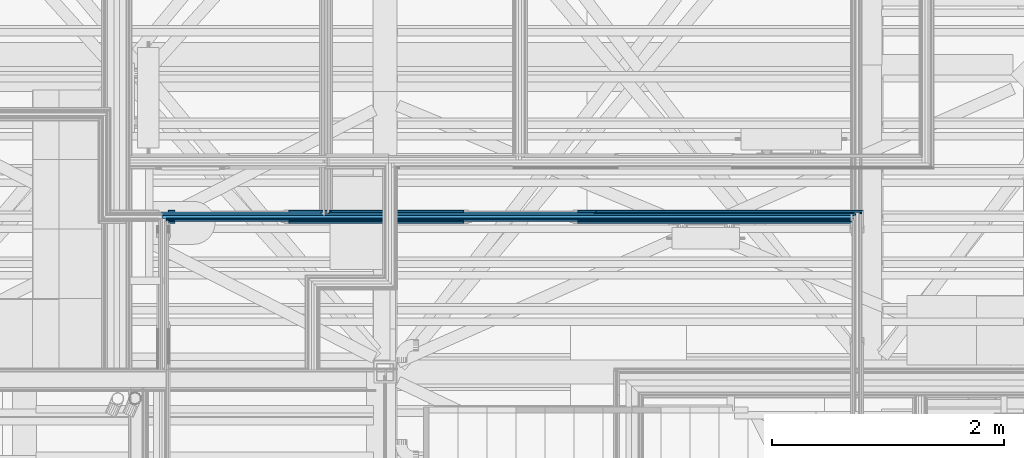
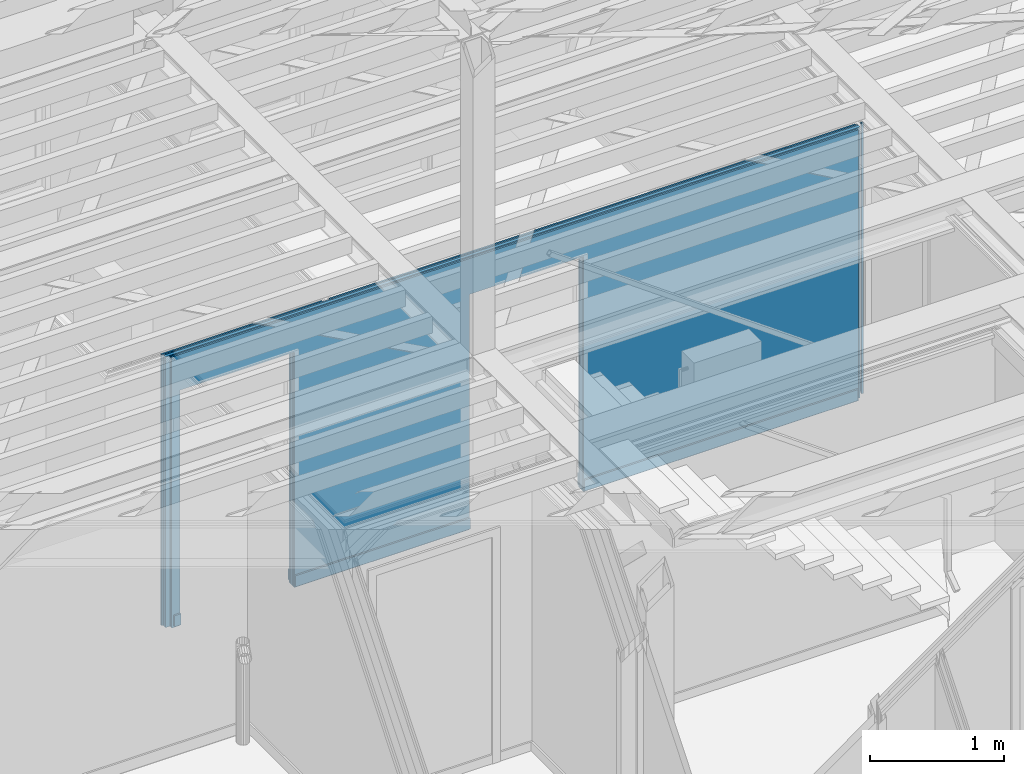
# One storey, part 57 of 183: 12 building element parts, 2 openings, 1 element without a shape of its own.
"""IFC2X3 building model written with IfcOpenShell, lengths in metres."""

import ifcopenshell
import ifcopenshell.guid

model = None  # the IFC model being written
_history = None  # IfcOwnerHistory: only IFC2X3 demands one
_inside = {}  # id of a spatial element -> (the spatial element, [elements in it])
_under = {}  # id of a project, library or spatial element -> (it, [spatial elements below it])
_declared = {}  # id of a project -> (the project, [libraries it declares])
_typed = {}  # id of a type object -> (the type object, [elements of that type])
_made_of = {}  # id of a material, layer set ... -> (it, [elements and type objects made of it])


def new_model(schema):
    """Start an empty IFC model of exactly this schema.

    Asked for "IFC4X3", IfcOpenShell would pick the latest addendum, in which some entities
    have other attributes; the version numbers below select the first issue.
    IFC2X3 requires an IfcOwnerHistory on every rooted entity: one is made here for all.
    """
    global model, _history
    if schema == "IFC4X3":
        model = ifcopenshell.file(schema_version=(4, 3, 0, 0))
    else:
        model = ifcopenshell.file(schema=schema)
    _inside.clear()
    _under.clear()
    _declared.clear()
    _typed.clear()
    _made_of.clear()
    _history = None
    if model.schema == "IFC2X3":
        org = make("IfcOrganization", Name="unknown")
        user = make(
            "IfcPersonAndOrganization",
            ThePerson=make("IfcPerson", FamilyName="unknown"),
            TheOrganization=org,
        )
        app = make(
            "IfcApplication",
            ApplicationDeveloper=org,
            Version="unknown",
            ApplicationFullName="unknown",
            ApplicationIdentifier="unknown",
        )
        _history = make(
            "IfcOwnerHistory",
            OwningUser=user,
            OwningApplication=app,
            ChangeAction="ADDED",
            CreationDate=0,
        )
    return model


def make(cls, **values):
    """One entity of the class cls with the attributes given. An attribute that is None is left unset."""
    return model.create_entity(
        cls, **{name: value for name, value in values.items() if value is not None}
    )


def entity(cls, *values):
    """Any entity or typed value of the class cls, its attributes in the order of the schema. None: left unset."""
    e = model.create_entity(cls)
    for i, value in enumerate(values):
        if value is not None:
            e[i] = value
    return e


def rooted(cls, **values):
    """An entity with a GlobalId (a new one), such as an element, a storey or a relation."""
    return make(cls, GlobalId=ifcopenshell.guid.new(), OwnerHistory=_history, **values)


def si_unit(unit_type, name, prefix=None):
    """IfcSIUnit, for example si_unit("LENGTHUNIT", "METRE", prefix="MILLI")."""
    return make("IfcSIUnit", UnitType=unit_type, Prefix=prefix, Name=name)


def converted_unit(unit_type, name, factor, base, dimensions=None, offset=None):
    """IfcConversionBasedUnit, such as the inch: factor (a typed value) times the base unit."""
    return make(
        "IfcConversionBasedUnit"
        if offset is None
        else "IfcConversionBasedUnitWithOffset",
        ConversionOffset=offset,
        Dimensions=None
        if dimensions is None
        else entity("IfcDimensionalExponents", *dimensions),
        UnitType=unit_type,
        Name=name,
        ConversionFactor=make(
            "IfcMeasureWithUnit", ValueComponent=factor, UnitComponent=base
        ),
    )


def derived_unit(unit_type, elements):
    """IfcDerivedUnit: a product of units, each with its exponent."""
    return make(
        "IfcDerivedUnit",
        Elements=[
            make("IfcDerivedUnitElement", Unit=unit, Exponent=power)
            for unit, power in elements
        ],
        UnitType=unit_type,
    )


def money_unit(currency):
    """IfcMonetaryUnit."""
    return make("IfcMonetaryUnit", Currency=currency)


def assignment(units):
    """IfcUnitAssignment: the units of a project."""
    return None if units is None else make("IfcUnitAssignment", Units=units)


def point(xyz):
    """IfcCartesianPoint."""
    return None if xyz is None else make("IfcCartesianPoint", Coordinates=xyz)


def direction(xyz):
    """IfcDirection."""
    return None if xyz is None else make("IfcDirection", DirectionRatios=xyz)


def frame(location, z_axis=None, x_axis=None):
    """IfcAxis2Placement3D, a coordinate frame: its origin and axes. An axis left out is left unset."""
    return make(
        "IfcAxis2Placement3D",
        Location=point(location),
        Axis=direction(z_axis),
        RefDirection=direction(x_axis),
    )


def frame_2d(location, x_axis=None):
    """IfcAxis2Placement2D, a coordinate frame in the plane: its origin and x axis."""
    return make(
        "IfcAxis2Placement2D", Location=point(location), RefDirection=direction(x_axis)
    )


def origin_with_axes():
    """The frame at (0, 0, 0) with the z axis (0, 0, 1) and the x axis (1, 0, 0) written out."""
    return frame((0.0, 0.0, 0.0), z_axis=(0.0, 0.0, 1.0), x_axis=(1.0, 0.0, 0.0))


def place(relative_to, where):
    """IfcLocalPlacement: puts the frame where relative to a parent placement (None: the world)."""
    return make(
        "IfcLocalPlacement", PlacementRelTo=relative_to, RelativePlacement=where
    )


def context(
    kind, dimensions, precision=None, world=None, true_north=None, identifier=None
):
    """IfcGeometricRepresentationContext, for example the 3D "Model" context."""
    return make(
        "IfcGeometricRepresentationContext",
        ContextIdentifier=identifier,
        ContextType=kind,
        CoordinateSpaceDimension=dimensions,
        Precision=precision,
        WorldCoordinateSystem=world,
        TrueNorth=true_north,
    )


def subcontext(parent, identifier, kind, view, scale=None):
    """IfcGeometricRepresentationSubContext, for example "Body" below "Model"."""
    return make(
        "IfcGeometricRepresentationSubContext",
        ContextIdentifier=identifier,
        ContextType=kind,
        ParentContext=parent,
        TargetScale=scale,
        TargetView=view,
    )


def project(units=None, contexts=None):
    """IfcProject with its units and contexts."""
    return rooted(
        "IfcProject",
        Name="project",
        RepresentationContexts=contexts,
        UnitsInContext=assignment(units),
    )


def spatial(cls, under=None, at=None, **own):
    """A site, building, storey or space (cls), placed at a placement, below another one or the project."""
    s = rooted(cls, ObjectPlacement=at, **own)
    if under is not None:
        _under.setdefault(under.id(), (under, []))[1].append(s)
    return s


def polyline(points):
    """IfcPolyline through the points."""
    return make("IfcPolyline", Points=[point(p) for p in points])


def profile(cls, at=None, kind="AREA", **sizes):
    """A parametric profile (cls). Its sizes go by their IFC names, for example OverallWidth=200.0."""
    return make(cls, ProfileType=kind, Position=at, **sizes)


def rectangle(**sizes):
    """IfcRectangleProfileDef."""
    return profile("IfcRectangleProfileDef", **sizes)


def outline(outer, holes=None, kind="AREA"):
    """IfcArbitraryClosedProfileDef: a profile drawn as a closed curve; with holes, ...WithVoids."""
    if holes is None:
        return make("IfcArbitraryClosedProfileDef", ProfileType=kind, OuterCurve=outer)
    return make(
        "IfcArbitraryProfileDefWithVoids",
        ProfileType=kind,
        OuterCurve=outer,
        InnerCurves=holes,
    )


def extrude(swept, where, along, depth):
    """IfcExtrudedAreaSolid: the profile swept, set in the frame where, extruded along a direction by depth."""
    return make(
        "IfcExtrudedAreaSolid",
        SweptArea=swept,
        Position=where,
        ExtrudedDirection=direction(along),
        Depth=depth,
    )


def shape(context_of_items, identifier, shape_type, items):
    """IfcShapeRepresentation: the items that make up one representation, for example the "Body"."""
    return make(
        "IfcShapeRepresentation",
        ContextOfItems=context_of_items,
        RepresentationIdentifier=identifier,
        RepresentationType=shape_type,
        Items=items,
    )


def material(Name=None, Category=None):
    """IfcMaterial."""
    return make("IfcMaterial", Name=Name, Category=Category)


def made_of(thing, what):
    """Note that an element or type object is made of a material, layer set ...; save() writes the relation."""
    if what is not None:
        _made_of.setdefault(what.id(), (what, []))[1].append(thing)
    return thing


def type_object(cls, material=None, **own):
    """A type object (cls), such as IfcWallType, which elements share."""
    return made_of(rooted(cls, **own), material)


def element(
    cls,
    number,
    at=None,
    inside=None,
    cuts=None,
    type_object=None,
    material=None,
    context=None,
    identifier="Body",
    shape_type=None,
    held_by="IfcProductDefinitionShape",
    body=None,
    shapes=None,
    **own,
):
    """One element of the class cls, such as IfcWall. Its Tag is "e" and its number.

    at: its placement. inside: the storey or other place that contains it. cuts: it is an
    opening in that element (IfcRelVoidsElement). A single representation is given by context,
    identifier, shape_type and body (its items); several are given by shapes. held_by: the class
    of the entity that holds the representations. save() writes the other relations.
    """
    e = rooted(cls, Tag="e%d" % number, ObjectPlacement=at, **own)
    if body is not None:
        shapes = [shape(context, identifier, shape_type, body)]
    if shapes is not None:
        e.Representation = make(held_by, Representations=shapes)
    if inside is not None:
        _inside.setdefault(inside.id(), (inside, []))[1].append(e)
    if cuts is not None:
        rooted(
            "IfcRelVoidsElement", RelatingBuildingElement=cuts, RelatedOpeningElement=e
        )
    if type_object is not None:
        _typed.setdefault(type_object.id(), (type_object, []))[1].append(e)
    return made_of(e, material)


def aggregate(whole, parts):
    """IfcRelAggregates: a whole, such as a stair, and the parts it consists of."""
    return rooted("IfcRelAggregates", RelatingObject=whole, RelatedObjects=parts)


def save(model, path):
    """Write the relations noted so far, then the file.

    IfcRelAggregates (storeys below a building ...), IfcRelContainedInSpatialStructure (elements
    in a storey), IfcRelDefinesByType, IfcRelAssociatesMaterial and IfcRelDeclares: one each for
    every whole, place, type object, material and project.
    """
    for whole, parts in _under.values():
        aggregate(whole, parts)
    for where, things in _inside.values():
        rooted(
            "IfcRelContainedInSpatialStructure",
            RelatedElements=things,
            RelatingStructure=where,
        )
    for kind, things in _typed.values():
        rooted("IfcRelDefinesByType", RelatedObjects=things, RelatingType=kind)
    for what, things in _made_of.values():
        rooted("IfcRelAssociatesMaterial", RelatedObjects=things, RelatingMaterial=what)
    for by, libraries in _declared.values():
        rooted("IfcRelDeclares", RelatingContext=by, RelatedDefinitions=libraries)
    model.write(path)


model = new_model("IFC2X3")

# Units and contexts
model_context = context("Model", 3, precision=1e-05, world=origin_with_axes(), true_north=direction((0.0, 1.0)))
body_context = subcontext(model_context, "Body", "Model", "MODEL_VIEW", scale=1.0)
ifc_project = project(units=[si_unit("LENGTHUNIT", "METRE"), si_unit("AREAUNIT", "SQUARE_METRE"), si_unit("VOLUMEUNIT", "CUBIC_METRE"), si_unit("ABSORBEDDOSEUNIT", "GRAY"), si_unit("AMOUNTOFSUBSTANCEUNIT", "MOLE"), si_unit("DOSEEQUIVALENTUNIT", "SIEVERT"), si_unit("ELECTRICCAPACITANCEUNIT", "FARAD"), si_unit("ELECTRICCHARGEUNIT", "COULOMB"), si_unit("ELECTRICCONDUCTANCEUNIT", "SIEMENS"), si_unit("ELECTRICCURRENTUNIT", "AMPERE"), si_unit("ELECTRICRESISTANCEUNIT", "OHM"), si_unit("ELECTRICVOLTAGEUNIT", "VOLT"), si_unit("ENERGYUNIT", "JOULE"), si_unit("FORCEUNIT", "NEWTON"), si_unit("FREQUENCYUNIT", "HERTZ"), si_unit("ILLUMINANCEUNIT", "LUX"), si_unit("INDUCTANCEUNIT", "HENRY"), si_unit("LUMINOUSFLUXUNIT", "LUMEN"), si_unit("LUMINOUSINTENSITYUNIT", "CANDELA"), si_unit("MAGNETICFLUXDENSITYUNIT", "TESLA"), si_unit("MAGNETICFLUXUNIT", "WEBER"), si_unit("MASSUNIT", "GRAM"), converted_unit("PLANEANGLEUNIT", "degree", entity("IfcReal", 0.0174532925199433), si_unit("PLANEANGLEUNIT", "RADIAN"), dimensions=[0, 0, 0, 0, 0, 0, 0]), si_unit("POWERUNIT", "WATT"), si_unit("PRESSUREUNIT", "PASCAL"), si_unit("RADIOACTIVITYUNIT", "BECQUEREL"), si_unit("SOLIDANGLEUNIT", "STERADIAN"), si_unit("THERMODYNAMICTEMPERATUREUNIT", "KELVIN"), si_unit("TIMEUNIT", "SECOND"), derived_unit("ACCELERATIONUNIT", [(si_unit("LENGTHUNIT", "METRE"), 1), (si_unit("TIMEUNIT", "SECOND"), -2)]), derived_unit("ANGULARVELOCITYUNIT", [(converted_unit("PLANEANGLEUNIT", "degree", entity("IfcReal", 0.0174532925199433), si_unit("PLANEANGLEUNIT", "RADIAN"), dimensions=[0, 0, 0, 0, 0, 0, 0]), 1), (si_unit("TIMEUNIT", "SECOND"), -1)]), derived_unit("CURVATUREUNIT", [(converted_unit("PLANEANGLEUNIT", "degree", entity("IfcReal", 0.0174532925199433), si_unit("PLANEANGLEUNIT", "RADIAN"), dimensions=[0, 0, 0, 0, 0, 0, 0]), 1), (si_unit("LENGTHUNIT", "METRE"), -1)]), derived_unit("DYNAMICVISCOSITYUNIT", [(si_unit("PRESSUREUNIT", "PASCAL"), 1), (si_unit("TIMEUNIT", "SECOND"), 1)]), derived_unit("HEATFLUXDENSITYUNIT", [(si_unit("POWERUNIT", "WATT"), 1), (si_unit("LENGTHUNIT", "METRE"), -2)]), derived_unit("HEATINGVALUEUNIT", [(si_unit("ENERGYUNIT", "JOULE"), 1), (si_unit("MASSUNIT", "GRAM"), -1)]), derived_unit("INTEGERCOUNTRATEUNIT", [(si_unit("TIMEUNIT", "SECOND"), -1)]), derived_unit("IONCONCENTRATIONUNIT", [(si_unit("MASSUNIT", "GRAM"), 1), (si_unit("VOLUMEUNIT", "CUBIC_METRE"), -1)]), derived_unit("ISOTHERMALMOISTURECAPACITYUNIT", [(si_unit("VOLUMEUNIT", "CUBIC_METRE"), 1), (si_unit("MASSUNIT", "GRAM"), -1)]), derived_unit("KINEMATICVISCOSITYUNIT", [(si_unit("AREAUNIT", "SQUARE_METRE"), 1), (si_unit("TIMEUNIT", "SECOND"), -1)]), derived_unit("LINEARFORCEUNIT", [(si_unit("FORCEUNIT", "NEWTON"), 1), (si_unit("LENGTHUNIT", "METRE"), -1)]), derived_unit("LINEARMOMENTUNIT", [(si_unit("FORCEUNIT", "NEWTON"), 1), (si_unit("LENGTHUNIT", "METRE"), -1)]), derived_unit("LINEARSTIFFNESSUNIT", [(si_unit("FORCEUNIT", "NEWTON"), 1), (si_unit("LENGTHUNIT", "METRE"), -1)]), derived_unit("LINEARVELOCITYUNIT", [(si_unit("LENGTHUNIT", "METRE"), 1), (si_unit("TIMEUNIT", "SECOND"), -1)]), derived_unit("LUMINOUSINTENSITYDISTRIBUTIONUNIT", [(si_unit("LUMINOUSINTENSITYUNIT", "CANDELA"), 1), (si_unit("LUMINOUSFLUXUNIT", "LUMEN"), -1)]), derived_unit("MASSDENSITYUNIT", [(si_unit("MASSUNIT", "GRAM"), 1), (si_unit("VOLUMEUNIT", "CUBIC_METRE"), -1)]), derived_unit("MASSFLOWRATEUNIT", [(si_unit("MASSUNIT", "GRAM"), 1), (si_unit("TIMEUNIT", "SECOND"), -1)]), derived_unit("MASSPERLENGTHUNIT", [(si_unit("MASSUNIT", "GRAM"), 1), (si_unit("LENGTHUNIT", "METRE"), -1)]), derived_unit("MODULUSOFELASTICITYUNIT", [(si_unit("FORCEUNIT", "NEWTON"), 1), (si_unit("AREAUNIT", "SQUARE_METRE"), -1)]), derived_unit("MODULUSOFLINEARSUBGRADEREACTIONUNIT", [(si_unit("FORCEUNIT", "NEWTON"), 1), (si_unit("LENGTHUNIT", "METRE"), -2)]), derived_unit("MODULUSOFROTATIONALSUBGRADEREACTIONUNIT", [(si_unit("FORCEUNIT", "NEWTON"), 1), (si_unit("LENGTHUNIT", "METRE"), 1)]), derived_unit("MODULUSOFSUBGRADEREACTIONUNIT", [(si_unit("FORCEUNIT", "NEWTON"), 1), (si_unit("VOLUMEUNIT", "CUBIC_METRE"), -1)]), derived_unit("MOISTUREDIFFUSIVITYUNIT", [(si_unit("VOLUMEUNIT", "CUBIC_METRE"), 1), (si_unit("TIMEUNIT", "SECOND"), -1)]), derived_unit("MOLECULARWEIGHTUNIT", [(si_unit("MASSUNIT", "GRAM"), 1), (si_unit("AMOUNTOFSUBSTANCEUNIT", "MOLE"), -1)]), derived_unit("PLANARFORCEUNIT", [(si_unit("FORCEUNIT", "NEWTON"), 1), (si_unit("LENGTHUNIT", "METRE"), -2)]), derived_unit("ROTATIONALFREQUENCYUNIT", [(si_unit("TIMEUNIT", "SECOND"), -1)]), derived_unit("ROTATIONALMASSUNIT", [(si_unit("MASSUNIT", "GRAM"), 1), (si_unit("LENGTHUNIT", "METRE"), 2)]), derived_unit("ROTATIONALSTIFFNESSUNIT", [(si_unit("FORCEUNIT", "NEWTON"), 1), (si_unit("LENGTHUNIT", "METRE"), 1), (converted_unit("PLANEANGLEUNIT", "degree", entity("IfcReal", 0.0174532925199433), si_unit("PLANEANGLEUNIT", "RADIAN"), dimensions=[0, 0, 0, 0, 0, 0, 0]), -1)]), derived_unit("SECTIONAREAINTEGRALUNIT", [(si_unit("LENGTHUNIT", "METRE"), 5)]), derived_unit("SECTIONMODULUSUNIT", [(si_unit("LENGTHUNIT", "METRE"), 3)]), derived_unit("SHEARMODULUSUNIT", [(si_unit("FORCEUNIT", "NEWTON"), 1), (si_unit("AREAUNIT", "SQUARE_METRE"), -1)]), derived_unit("SOUNDPOWERUNIT", [(si_unit("ENERGYUNIT", "JOULE"), 1), (si_unit("TIMEUNIT", "SECOND"), -1)]), derived_unit("SPECIFICHEATCAPACITYUNIT", [(si_unit("FORCEUNIT", "NEWTON"), 1), (si_unit("MASSUNIT", "GRAM"), -1), (si_unit("THERMODYNAMICTEMPERATUREUNIT", "KELVIN"), -1)]), derived_unit("TEMPERATUREGRADIENTUNIT", [(si_unit("THERMODYNAMICTEMPERATUREUNIT", "KELVIN"), 1), (si_unit("LENGTHUNIT", "METRE"), -1)]), derived_unit("THERMALADMITTANCEUNIT", [(si_unit("POWERUNIT", "WATT"), 1), (si_unit("AREAUNIT", "SQUARE_METRE"), -1), (si_unit("THERMODYNAMICTEMPERATUREUNIT", "KELVIN"), -1)]), derived_unit("THERMALCONDUCTANCEUNIT", [(si_unit("POWERUNIT", "WATT"), 1), (si_unit("LENGTHUNIT", "METRE"), -1), (si_unit("THERMODYNAMICTEMPERATUREUNIT", "KELVIN"), -1)]), derived_unit("THERMALEXPANSIONCOEFFICIENTUNIT", [(si_unit("THERMODYNAMICTEMPERATUREUNIT", "KELVIN"), -1)]), derived_unit("THERMALRESISTANCEUNIT", [(si_unit("AREAUNIT", "SQUARE_METRE"), 1), (si_unit("POWERUNIT", "WATT"), -1)]), derived_unit("THERMALTRANSMITTANCEUNIT", [(si_unit("POWERUNIT", "WATT"), 1), (si_unit("AREAUNIT", "SQUARE_METRE"), -1), (si_unit("THERMODYNAMICTEMPERATUREUNIT", "KELVIN"), -1)]), derived_unit("TORQUEUNIT", [(si_unit("FORCEUNIT", "NEWTON"), 1), (si_unit("LENGTHUNIT", "METRE"), 1)]), derived_unit("VAPORPERMEABILITYUNIT", [(si_unit("MASSUNIT", "GRAM"), 1), (si_unit("TIMEUNIT", "SECOND"), -1)]), derived_unit("VOLUMETRICFLOWRATEUNIT", [(si_unit("VOLUMEUNIT", "CUBIC_METRE"), 1), (si_unit("TIMEUNIT", "SECOND"), -1)]), derived_unit("WARPINGCONSTANTUNIT", [(si_unit("LENGTHUNIT", "METRE"), 6)]), derived_unit("WARPINGMOMENTUNIT", [(si_unit("FORCEUNIT", "NEWTON"), 1), (si_unit("LENGTHUNIT", "METRE"), 2)]), money_unit("GBP")], contexts=[model_context])

# Site, building, storey
site_placement = place(None, origin_with_axes())
site = spatial("IfcSite", under=ifc_project, at=site_placement, Name="Site", CompositionType="ELEMENT")
building_placement = place(site_placement, origin_with_axes())
building = spatial("IfcBuilding", under=site, at=building_placement, Name="Building01", CompositionType="ELEMENT")
storey_placement = place(building_placement, frame((0.0, 0.0, 5.15), z_axis=(0.0, 0.0, 1.0), x_axis=(1.0, 0.0, 0.0)))
storey = spatial("IfcBuildingStorey", under=building, at=storey_placement, Name="1F", CompositionType="ELEMENT", Elevation=5.15)

# Wall, openings, building element parts
wall_type = type_object("IfcWallType", Name="SHE_A-Walls_Type05b_Partition_80mm", PredefinedType="NOTDEFINED")
wall_placement = place(storey_placement, frame((15.98644, 10.126939, 9.78), z_axis=(0.0, 0.0, 1.0), x_axis=(1.0, 0.0, 0.0)))
wall = element("IfcWall", 1, at=wall_placement, inside=storey, type_object=wall_type, Name="5B", ObjectType="SHE_A-Walls_Type05b_Partition_80mm")
opening_1_placement = place(wall_placement, frame((2.601536, -0.042, 0.0), z_axis=(0.0, 0.0, 1.0), x_axis=(1.0, 0.0, 0.0)))
element("IfcOpeningElement", 2, at=opening_1_placement, cuts=wall, Name="Opening", ObjectType="Opening", context=body_context, shape_type="SweptSolid", body=[
    extrude(rectangle(XDim=0.984, YDim=2.142, at=frame_2d((-0.492, 1.071), x_axis=(1.0, 0.0))), frame((0.0, 0.0, 0.0), z_axis=(0.0, 1.0, 0.0), x_axis=(-1.0, 0.0, 0.0)), (0.0, 0.0, 1.0), 0.11),
])
opening_2_placement = place(wall_placement, frame((0.11, -0.042, 0.0), z_axis=(0.0, 0.0, 1.0), x_axis=(1.0, 0.0, 0.0)))
element("IfcOpeningElement", 3, at=opening_2_placement, cuts=wall, Name="Opening", ObjectType="Opening", context=body_context, shape_type="SweptSolid", body=[
    extrude(rectangle(XDim=0.984, YDim=2.142, at=frame_2d((-0.492, 1.071), x_axis=(-1.0, 0.0))), frame((0.0, 0.0, 0.0), z_axis=(0.0, 1.0, 0.0), x_axis=(-1.0, 0.0, 0.0)), (0.0, 0.0, 1.0), 0.11),
])
ifc_material_1 = material(Name="A_BSUK_Walls_Timber")
placement = place(wall_placement, origin_with_axes())
building_element_part_1 = element("IfcBuildingElementPart", 4, at=placement, material=ifc_material_1, Name="1", context=body_context, shape_type="SweptSolid", body=[
    extrude(outline(polyline([(5.953536, -0.027), (0.052, -0.027), (0.052, -0.042), (5.938536, -0.042), (5.953536, -0.027)])), frame((0.0, 0.0, 0.015), z_axis=(0.0, 0.0, 1.0), x_axis=(1.0, 0.0, 0.0)), (0.0, 0.0, 1.0), 0.1),
])
ifc_material_2 = material(Name="A_BSUK_WallInternal_Finishes_Plasterboard")
building_element_part_2 = element("IfcBuildingElementPart", 5, at=placement, material=ifc_material_2, Name="2", context=body_context, shape_type="SweptSolid", body=[
    extrude(rectangle(XDim=5.916536, YDim=0.015, at=frame_2d((2.995268, -0.0195), x_axis=(-1.0, 0.0))), origin_with_axes(), (0.0, 0.0, 1.0), 2.468),
])
ifc_material_3 = material(Name="Air Cavity")
building_element_part_3 = element("IfcBuildingElementPart", 6, at=placement, material=ifc_material_3, Name="3", context=body_context, shape_type="SweptSolid", body=[
    extrude(rectangle(XDim=5.916536, YDim=0.012, at=frame_2d((2.995268, -0.006), x_axis=(-1.0, 0.0))), origin_with_axes(), (0.0, 0.0, 1.0), 2.468),
])
ifc_material_4 = material(Name="A_BSUK_Insulation")
building_element_part_4 = element("IfcBuildingElementPart", 7, at=placement, material=ifc_material_4, Name="4", context=body_context, shape_type="SweptSolid", body=[
    extrude(rectangle(XDim=5.981536, YDim=0.025, at=frame_2d((2.990768, 0.0125), x_axis=(-1.0, 0.0))), origin_with_axes(), (0.0, 0.0, 1.0), 2.468),
])
building_element_part_5 = element("IfcBuildingElementPart", 8, at=placement, material=ifc_material_3, Name="5", context=body_context, shape_type="SweptSolid", body=[
    extrude(rectangle(XDim=5.981536, YDim=0.013, at=frame_2d((2.990768, 0.0315), x_axis=(-1.0, 0.0))), origin_with_axes(), (0.0, 0.0, 1.0), 2.468),
])
building_element_part_6 = element("IfcBuildingElementPart", 9, at=placement, material=ifc_material_2, Name="6", context=body_context, shape_type="SweptSolid", body=[
    extrude(rectangle(XDim=1.386536, YDim=0.015, at=frame_2d((0.680268, 0.0455), x_axis=(-1.0, 0.0))), origin_with_axes(), (0.0, 0.0, 1.0), 2.468),
])
building_element_part_7 = element("IfcBuildingElementPart", 10, at=placement, material=ifc_material_2, Name="7", context=body_context, shape_type="SweptSolid", body=[
    extrude(rectangle(XDim=0.015, YDim=4.53, at=frame_2d((3.703536, 0.0455), x_axis=(0.0, -1.0))), origin_with_axes(), (0.0, 0.0, 1.0), 2.468),
])
building_element_part_8 = element("IfcBuildingElementPart", 11, at=placement, material=ifc_material_2, Name="8", context=body_context, shape_type="SweptSolid", body=[
    extrude(rectangle(XDim=2.24, YDim=0.015, at=frame_2d((4.848536, 0.0455), x_axis=(-1.0, 0.0))), origin_with_axes(), (0.0, 0.0, 1.0), 2.468),
])
building_element_part_9 = element("IfcBuildingElementPart", 12, at=placement, material=ifc_material_2, Name="9", context=body_context, shape_type="SweptSolid", body=[
    extrude(rectangle(XDim=0.01533, YDim=0.015, at=frame_2d((6.025871, 0.0455), x_axis=(-1.0, 0.0))), origin_with_axes(), (0.0, 0.0, 1.0), 2.468),
])
building_element_part_10 = element("IfcBuildingElementPart", 13, at=placement, material=ifc_material_1, Name="10", context=body_context, shape_type="SweptSolid", body=[
    extrude(outline(polyline([(6.048536, 0.068), (0.052, 0.068), (0.052, 0.053), (6.033536, 0.053), (6.048536, 0.068)])), frame((0.0, 0.0, 0.015), z_axis=(0.0, 0.0, 1.0), x_axis=(1.0, 0.0, 0.0)), (0.0, 0.0, 1.0), 0.1),
])
building_element_part_11 = element("IfcBuildingElementPart", 14, at=placement, material=ifc_material_1, Name="11", context=body_context, shape_type="SweptSolid", body=[
    extrude(outline(polyline([(6.048536, 0.068), (1.453536, 0.068), (1.453536, 0.053), (6.033536, 0.053), (6.048536, 0.068)])), frame((0.0, 0.0, 0.015), z_axis=(0.0, 0.0, 1.0), x_axis=(1.0, 0.0, 0.0)), (0.0, 0.0, 1.0), 0.1),
])
building_element_part_12 = element("IfcBuildingElementPart", 15, at=placement, material=ifc_material_1, Name="12", context=body_context, shape_type="SweptSolid", body=[
    extrude(outline(polyline([(6.048536, 0.068), (3.743536, 0.068), (3.743536, 0.053), (6.033536, 0.053), (6.048536, 0.068)])), frame((0.0, 0.0, 0.015), z_axis=(0.0, 0.0, 1.0), x_axis=(1.0, 0.0, 0.0)), (0.0, 0.0, 1.0), 0.1),
])
aggregate(wall, [building_element_part_1, building_element_part_2, building_element_part_3, building_element_part_4, building_element_part_5, building_element_part_6, building_element_part_7, building_element_part_8, building_element_part_9, building_element_part_10, building_element_part_11, building_element_part_12])

save(model, "model.ifc")
